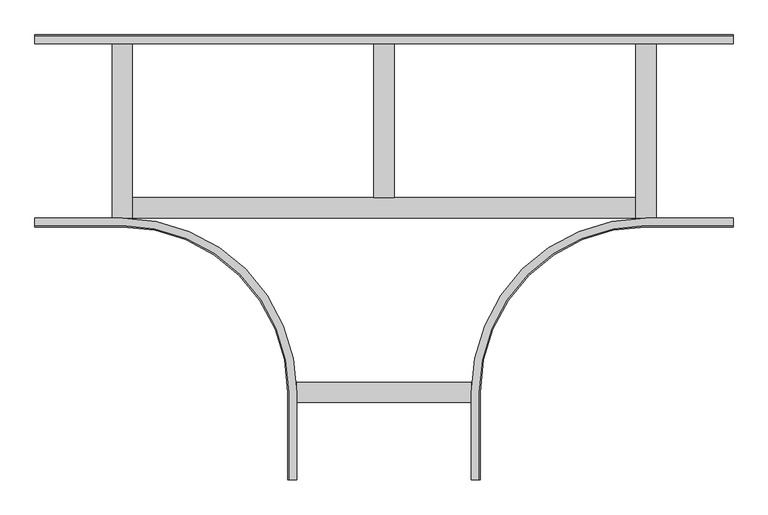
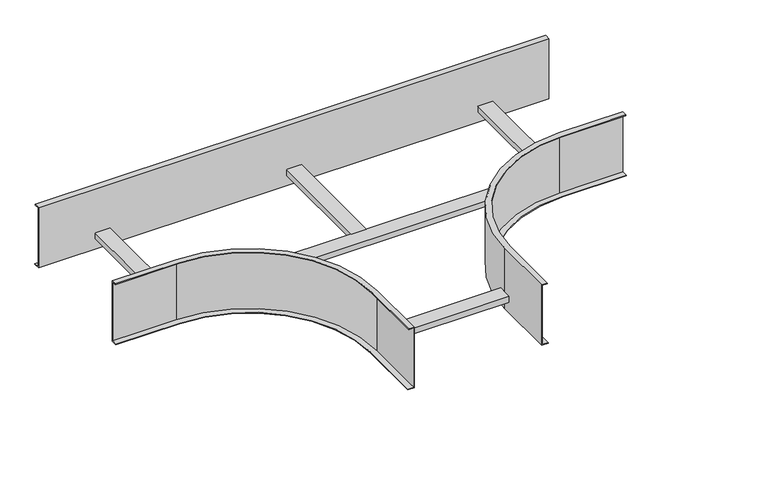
"""IFC4 building model written with IfcOpenShell, lengths in millimetres: cable carrier fitting geometry, TEBSL-TEBSLR_Horizontal Tee-Basortrav : Basortrav TEBSL-300 GC."""

from ifc_helpers import new_model, si_unit, frame, origin, place, context, project, spatial, polyline, circle_curve, outline, extrude, source, transform, mapped, element, save
from ifc_brep_helpers import plane_surface, cylinder_surface, revolved_surface, advanced_brep


def cable_carrier_fitting_351786fa(model_context):
    return source(origin(), model_context, "Body", "SolidModel", [
        advanced_brep(
        [(-600.0, -163.0, 75.0), (-600.0, -150.0, 75.0), (-600.0, -150.0, -75.0), (-600.0, -165.1346187, -75.0), (-600.0, -165.1346187, -73.5), (-600.0, -151.5, -73.5), (-600.0, -151.5, 73.5), (-600.0, -163.0, 73.5), (-450.0, -163.0, 75.0), (-163.0, -450.0, 75.0), (-163.0, -600.0, 75.0), (-150.0, -600.0, 75.0), (-150.0, -450.0, 75.0), (-450.0, -150.0, 75.0), (-450.0, -150.0, -75.0), (-150.0, -450.0, -75.0), (-150.0, -600.0, -75.0), (-165.1346187, -600.0, -75.0), (-165.1346187, -450.0, -75.0), (-450.0, -165.1346187, -75.0), (-450.0, -151.5, 73.5), (-151.5, -450.0, 73.5), (-151.5, -600.0, 73.5), (-163.0, -600.0, 73.5), (-163.0, -450.0, 73.5), (-450.0, -163.0, 73.5), (-151.5, -600.0, -73.5), (-165.1346187, -600.0, -73.5), (-450.0, -165.1346187, -73.5), (-165.1346187, -450.0, -73.5), (-151.5, -450.0, -73.5), (-450.0, -151.5, -73.5)],
        [
            (0, 1),
            (1, 2),
            (2, 3),
            (3, 4),
            (4, 5),
            (5, 6),
            (6, 7),
            (7, 0),
            (0, 8),
            (8, 9, circle_curve(frame((-450.0, -450.0, 75.0), z_axis=(0.0, 0.0, -1.0), x_axis=(0.0, 1.0, 0.0)), 287.0)),
            (9, 10),
            (10, 11),
            (11, 12),
            (12, 13, circle_curve(frame((-450.0, -450.0, 75.0), z_axis=(0.0, 0.0, 1.0), x_axis=(0.0, 1.0, 0.0)), 300.0)),
            (13, 1),
            (13, 14),
            (14, 2),
            (14, 15, circle_curve(frame((-450.0, -450.0, -75.0), z_axis=(0.0, 0.0, -1.0), x_axis=(0.0, 1.0, 0.0)), 300.0)),
            (15, 16),
            (16, 17),
            (17, 18),
            (18, 19, circle_curve(frame((-450.0, -450.0, -75.0), z_axis=(0.0, 0.0, 1.0), x_axis=(0.0, 1.0, 0.0)), 284.8653813)),
            (19, 3),
            (6, 20),
            (20, 21, circle_curve(frame((-450.0, -450.0, 73.5), z_axis=(0.0, 0.0, -1.0), x_axis=(0.0, 1.0, 0.0)), 298.5)),
            (21, 22),
            (22, 23),
            (23, 24),
            (24, 25, circle_curve(frame((-450.0, -450.0, 73.5), z_axis=(0.0, 0.0, 1.0), x_axis=(0.0, 1.0, 0.0)), 287.0)),
            (25, 7),
            (25, 8),
            (12, 15),
            (24, 9),
            (10, 23),
            (22, 26),
            (26, 27),
            (27, 17),
            (16, 11),
            (19, 28),
            (28, 4),
            (28, 29, circle_curve(frame((-450.0, -450.0, -73.5), z_axis=(0.0, 0.0, -1.0), x_axis=(0.0, 1.0, 0.0)), 284.8653813)),
            (29, 27),
            (26, 30),
            (30, 31, circle_curve(frame((-450.0, -450.0, -73.5), z_axis=(0.0, 0.0, 1.0), x_axis=(0.0, 1.0, 0.0)), 298.5)),
            (31, 5),
            (31, 20),
            (18, 29),
            (30, 21),
        ],
        [
            plane_surface(frame((-600.0, -150.0, 75.0), z_axis=(-1.0, 0.0, 0.0), x_axis=(0.0, 0.0, 1.0))),
            plane_surface(frame((-600.0, -163.0, 75.0), z_axis=(0.0, 0.0, 1.0), x_axis=(1.0, 0.0, 0.0))),
            plane_surface(frame((-600.0, -150.0, 75.0), z_axis=(0.0, 1.0, 0.0), x_axis=(1.0, 0.0, 0.0))),
            plane_surface(frame((-600.0, -150.0, -75.0), z_axis=(0.0, 0.0, -1.0), x_axis=(1.0, 0.0, 0.0))),
            plane_surface(frame((-600.0, -151.5, 73.5), z_axis=(0.0, 0.0, -1.0), x_axis=(1.0, 0.0, 0.0))),
            plane_surface(frame((-600.0, -163.0, 73.5), z_axis=(0.0, -1.0, 0.0), x_axis=(1.0, 0.0, 0.0))),
            cylinder_surface(frame((-450.0, -450.0, 75.0), z_axis=(0.0, 0.0, -1.0), x_axis=(0.0, 1.0, 0.0)), 300.0),
            revolved_surface(polyline([(-450.0, -163.0, 73.5), (-450.0, -163.0, 75.0)]), (-450.0, -450.0, 75.0), (0.0, 0.0, -1.0)),
            plane_surface(frame((-150.0, -600.0, 75.0), z_axis=(0.0, -1.0, 0.0), x_axis=(0.0, 0.0, 1.0))),
            plane_surface(frame((-150.0, -450.0, 75.0), z_axis=(1.0, 0.0, 0.0), x_axis=(0.0, -1.0, 0.0))),
            plane_surface(frame((-163.0, -450.0, 73.5), z_axis=(-1.0, 0.0, 0.0), x_axis=(0.0, -1.0, 0.0))),
            plane_surface(frame((-600.0, -165.1346187, -75.0), z_axis=(0.0, -1.0, 0.0), x_axis=(1.0, 0.0, 0.0))),
            plane_surface(frame((-600.0, -165.1346187, -73.5), z_axis=(0.0, 0.0, 1.0), x_axis=(1.0, 0.0, 0.0))),
            plane_surface(frame((-600.0, -151.5, -73.5), z_axis=(0.0, -1.0, 0.0), x_axis=(1.0, 0.0, 0.0))),
            revolved_surface(polyline([(-450.0, -165.13461869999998, -75.0), (-450.0, -165.13461869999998, -73.5)]), (-450.0, -450.0, 75.0), (0.0, 0.0, -1.0)),
            revolved_surface(polyline([(-450.0, -151.5, -73.5), (-450.0, -151.5, 73.5)]), (-450.0, -450.0, 75.0), (0.0, 0.0, -1.0)),
            plane_surface(frame((-165.1346187, -450.0, -75.0), z_axis=(-1.0, 0.0, 0.0), x_axis=(0.0, -1.0, 0.0))),
            plane_surface(frame((-151.5, -450.0, -73.5), z_axis=(-1.0, 0.0, 0.0), x_axis=(0.0, -1.0, 0.0))),
        ],
        [
            (0, [[1, 2, 3, 4, 5, 6, 7, 8]]),
            (1, [[-1, 9, 10, 11, 12, 13, 14, 15]]),
            (2, [[-2, -15, 16, 17]]),
            (3, [[-3, -17, 18, 19, 20, 21, 22, 23]]),
            (4, [[-7, 24, 25, 26, 27, 28, 29, 30]]),
            (5, [[-8, -30, 31, -9]]),
            (6, [[-18, -16, -14, 32]]),
            (7, [[-10, -31, -29, 33]]),
            (8, [[34, -27, 35, 36, 37, -20, 38, -12]]),
            (9, [[-32, -13, -38, -19]]),
            (10, [[-33, -28, -34, -11]]),
            (11, [[-4, -23, 39, 40]]),
            (12, [[-5, -40, 41, 42, -36, 43, 44, 45]]),
            (13, [[-6, -45, 46, -24]]),
            (14, [[-41, -39, -22, 47]]),
            (15, [[-25, -46, -44, 48]]),
            (16, [[-47, -21, -37, -42]]),
            (17, [[-48, -43, -35, -26]]),
        ],
    ),
        advanced_brep(
        [(163.0, -600.0, 75.0), (150.0, -600.0, 75.0), (150.0, -600.0, -75.0), (165.1346187, -600.0, -75.0), (165.1346187, -600.0, -73.5), (151.5, -600.0, -73.5), (151.5, -600.0, 73.5), (163.0, -600.0, 73.5), (163.0, -450.0, 75.0), (450.0, -163.0, 75.0), (600.0, -163.0, 75.0), (600.0, -150.0, 75.0), (450.0, -150.0, 75.0), (150.0, -450.0, 75.0), (150.0, -450.0, -75.0), (450.0, -150.0, -75.0), (600.0, -150.0, -75.0), (600.0, -165.1346187, -75.0), (450.0, -165.1346187, -75.0), (165.1346187, -450.0, -75.0), (151.5, -450.0, 73.5), (450.0, -151.5, 73.5), (600.0, -151.5, 73.5), (600.0, -163.0, 73.5), (450.0, -163.0, 73.5), (163.0, -450.0, 73.5), (600.0, -151.5, -73.5), (600.0, -165.1346187, -73.5), (165.1346187, -450.0, -73.5), (450.0, -165.1346187, -73.5), (450.0, -151.5, -73.5), (151.5, -450.0, -73.5)],
        [
            (0, 1),
            (1, 2),
            (2, 3),
            (3, 4),
            (4, 5),
            (5, 6),
            (6, 7),
            (7, 0),
            (0, 8),
            (8, 9, circle_curve(frame((450.0, -450.0, 75.0), z_axis=(0.0, 0.0, -1.0), x_axis=(-1.0, 0.0, 0.0)), 287.0)),
            (9, 10),
            (10, 11),
            (11, 12),
            (12, 13, circle_curve(frame((450.0, -450.0, 75.0), z_axis=(0.0, 0.0, 1.0), x_axis=(-1.0, 0.0, 0.0)), 300.0)),
            (13, 1),
            (13, 14),
            (14, 2),
            (14, 15, circle_curve(frame((450.0, -450.0, -75.0), z_axis=(0.0, 0.0, -1.0), x_axis=(-1.0, 0.0, 0.0)), 300.0)),
            (15, 16),
            (16, 17),
            (17, 18),
            (18, 19, circle_curve(frame((450.0, -450.0, -75.0), z_axis=(0.0, 0.0, 1.0), x_axis=(-1.0, 0.0, 0.0)), 284.8653813)),
            (19, 3),
            (6, 20),
            (20, 21, circle_curve(frame((450.0, -450.0, 73.5), z_axis=(0.0, 0.0, -1.0), x_axis=(-1.0, 0.0, 0.0)), 298.5)),
            (21, 22),
            (22, 23),
            (23, 24),
            (24, 25, circle_curve(frame((450.0, -450.0, 73.5), z_axis=(0.0, 0.0, 1.0), x_axis=(-1.0, 0.0, 0.0)), 287.0)),
            (25, 7),
            (25, 8),
            (12, 15),
            (24, 9),
            (10, 23),
            (22, 26),
            (26, 27),
            (27, 17),
            (16, 11),
            (19, 28),
            (28, 4),
            (28, 29, circle_curve(frame((450.0, -450.0, -73.5), z_axis=(0.0, 0.0, -1.0), x_axis=(-1.0, 0.0, 0.0)), 284.8653813)),
            (29, 27),
            (26, 30),
            (30, 31, circle_curve(frame((450.0, -450.0, -73.5), z_axis=(0.0, 0.0, 1.0), x_axis=(-1.0, 0.0, 0.0)), 298.5)),
            (31, 5),
            (31, 20),
            (18, 29),
            (30, 21),
        ],
        [
            plane_surface(frame((150.0, -600.0, 75.0), z_axis=(0.0, -1.0, 0.0), x_axis=(0.0, 0.0, 1.0))),
            plane_surface(frame((163.0, -600.0, 75.0), z_axis=(0.0, 0.0, 1.0), x_axis=(0.0, 1.0, 0.0))),
            plane_surface(frame((150.0, -600.0, 75.0), z_axis=(-1.0, 0.0, 0.0), x_axis=(0.0, 1.0, 0.0))),
            plane_surface(frame((150.0, -600.0, -75.0), z_axis=(0.0, 0.0, -1.0), x_axis=(0.0, 1.0, 0.0))),
            plane_surface(frame((151.5, -600.0, 73.5), z_axis=(0.0, 0.0, -1.0), x_axis=(0.0, 1.0, 0.0))),
            plane_surface(frame((163.0, -600.0, 73.5), z_axis=(1.0, 0.0, 0.0), x_axis=(0.0, 1.0, 0.0))),
            cylinder_surface(frame((450.0, -450.0, 75.0), z_axis=(0.0, 0.0, -1.0), x_axis=(-1.0, 0.0, 0.0)), 300.0),
            revolved_surface(polyline([(163.0, -450.0, 73.5), (163.0, -450.0, 75.0)]), (450.0, -450.0, 75.0), (0.0, 0.0, -1.0)),
            plane_surface(frame((600.0, -150.0, 75.0), z_axis=(1.0, 0.0, 0.0), x_axis=(0.0, 0.0, 1.0))),
            plane_surface(frame((450.0, -150.0, 75.0), z_axis=(0.0, 1.0, 0.0), x_axis=(1.0, 0.0, 0.0))),
            plane_surface(frame((450.0, -163.0, 73.5), z_axis=(0.0, -1.0, 0.0), x_axis=(1.0, 0.0, 0.0))),
            plane_surface(frame((165.1346187, -600.0, -75.0), z_axis=(1.0, 0.0, 0.0), x_axis=(0.0, 1.0, 0.0))),
            plane_surface(frame((165.1346187, -600.0, -73.5), z_axis=(0.0, 0.0, 1.0), x_axis=(0.0, 1.0, 0.0))),
            plane_surface(frame((151.5, -600.0, -73.5), z_axis=(1.0, 0.0, 0.0), x_axis=(0.0, 1.0, 0.0))),
            revolved_surface(polyline([(165.13461869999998, -450.0, -75.0), (165.13461869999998, -450.0, -73.5)]), (450.0, -450.0, 75.0), (0.0, 0.0, -1.0)),
            revolved_surface(polyline([(151.5, -450.0, -73.5), (151.5, -450.0, 73.5)]), (450.0, -450.0, 75.0), (0.0, 0.0, -1.0)),
            plane_surface(frame((450.0, -165.1346187, -75.0), z_axis=(0.0, -1.0, 0.0), x_axis=(1.0, 0.0, 0.0))),
            plane_surface(frame((450.0, -151.5, -73.5), z_axis=(0.0, -1.0, 0.0), x_axis=(1.0, 0.0, 0.0))),
        ],
        [
            (0, [[1, 2, 3, 4, 5, 6, 7, 8]]),
            (1, [[-1, 9, 10, 11, 12, 13, 14, 15]]),
            (2, [[-2, -15, 16, 17]]),
            (3, [[-3, -17, 18, 19, 20, 21, 22, 23]]),
            (4, [[-7, 24, 25, 26, 27, 28, 29, 30]]),
            (5, [[-8, -30, 31, -9]]),
            (6, [[-18, -16, -14, 32]]),
            (7, [[-10, -31, -29, 33]]),
            (8, [[34, -27, 35, 36, 37, -20, 38, -12]]),
            (9, [[-32, -13, -38, -19]]),
            (10, [[-33, -28, -34, -11]]),
            (11, [[-4, -23, 39, 40]]),
            (12, [[-5, -40, 41, 42, -36, 43, 44, 45]]),
            (13, [[-6, -45, 46, -24]]),
            (14, [[-41, -39, -22, 47]]),
            (15, [[-25, -46, -44, 48]]),
            (16, [[-47, -21, -37, -42]]),
            (17, [[-48, -43, -35, -26]]),
        ],
    ),
        extrude(outline(polyline([(163.0, 75.0), (163.0, 73.5), (151.5, 73.5), (151.5, -73.5), (165.1346187, -73.5), (165.1346187, -75.0), (150.0, -75.0), (150.0, 75.0), (163.0, 75.0)])), frame((-600.0, 0.0, 0.0), z_axis=(1.0, 0.0, 0.0), x_axis=(0.0, 1.0, 0.0)), (0.0, 0.0, 1.0), 1200.0),
        extrude(outline(polyline([(150.0, -467.5), (-150.0, -467.5), (-150.0, -432.5), (150.0, -432.5), (150.0, -467.5)])), frame((0.0, 0.0, -48.0), z_axis=(0.0, 0.0, 1.0), x_axis=(1.0, 0.0, 0.0)), (0.0, 0.0, 1.0), 14.0),
        extrude(outline(polyline([(467.5, 150.0), (467.5, -150.0), (432.5, -150.0), (432.5, 150.0), (467.5, 150.0)])), frame((0.0, 0.0, -48.0), z_axis=(0.0, 0.0, 1.0), x_axis=(1.0, 0.0, 0.0)), (0.0, 0.0, 1.0), 14.0),
        extrude(outline(polyline([(17.5, 150.0), (17.5, -115.0), (-17.5, -115.0), (-17.5, 150.0), (17.5, 150.0)])), frame((0.0, 0.0, -48.0), z_axis=(0.0, 0.0, 1.0), x_axis=(1.0, 0.0, 0.0)), (0.0, 0.0, 1.0), 14.0),
        extrude(outline(polyline([(-432.5, 150.0), (-432.5, -150.0), (-467.5, -150.0), (-467.5, 150.0), (-432.5, 150.0)])), frame((0.0, 0.0, -48.0), z_axis=(0.0, 0.0, 1.0), x_axis=(1.0, 0.0, 0.0)), (0.0, 0.0, 1.0), 14.0),
        extrude(outline(polyline([(432.5, -150.0), (-432.5, -150.0), (-432.5, -115.0), (432.5, -115.0), (432.5, -150.0)])), frame((0.0, 0.0, -48.0), z_axis=(0.0, 0.0, 1.0), x_axis=(1.0, 0.0, 0.0)), (0.0, 0.0, 1.0), 14.0),
    ])


if __name__ == "__main__":
    model = new_model("IFC4")
    model_context = context("Model", 3, world=origin())
    ifc_project = project(units=[si_unit("LENGTHUNIT", "METRE", prefix="MILLI")], contexts=[model_context])
    site = spatial("IfcSite", under=ifc_project)
    building = spatial("IfcBuilding", under=site)
    placement = place(None, origin())
    cable_carrier_fitting_shape = cable_carrier_fitting_351786fa(model_context)
    element("IfcCableCarrierFitting", 1, ObjectType="TEBSL-TEBSLR_Horizontal Tee-Basortrav : Basortrav TEBSL-300 GC", at=placement, inside=building, context=model_context, shape_type="MappedRepresentation", body=[
        mapped(cable_carrier_fitting_shape, transform((0.0, 0.0, 0.0), x_axis=(1.0, 0.0, 0.0), y_axis=(0.0, 1.0, 0.0), z_axis=(0.0, 0.0, 1.0))),
    ])
    save(model, "model.ifc")
